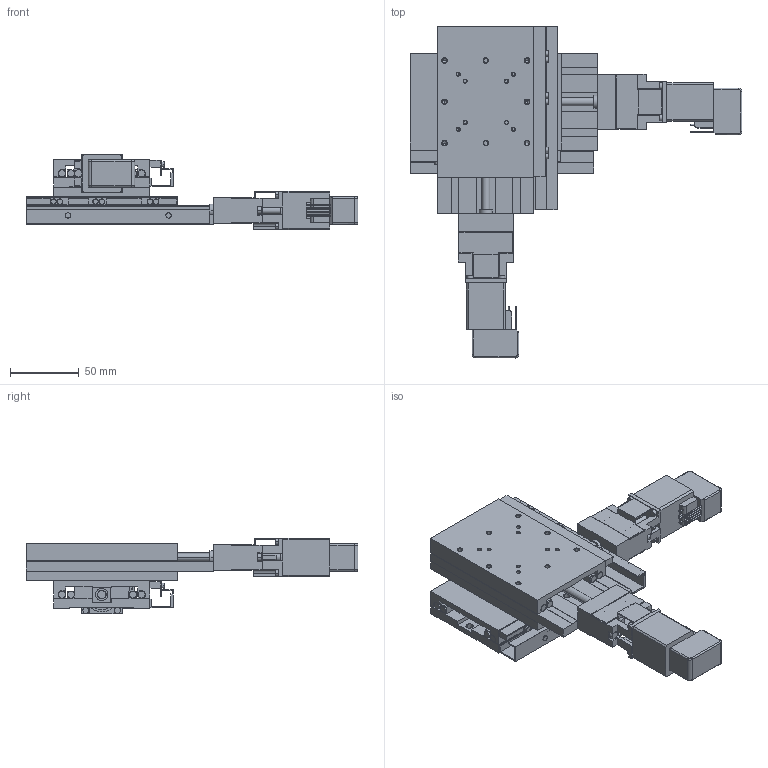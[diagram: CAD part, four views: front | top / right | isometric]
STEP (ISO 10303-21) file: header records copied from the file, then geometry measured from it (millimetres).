
FILE_DESCRIPTION(('STEP AP203'),'1');
FILE_NAME('C:/3D-Trans/3D_PMG750T-R□-ZA+240122.step','2024-03-14T08:44:43',(' '),(' '),'Spatial InterOp 3D',' ',' ');
FILE_SCHEMA(('CONFIG_CONTROL_DESIGN'));
Length unit declared in the file: millimetre
Products named in the file (13): 1; 2; 3; 4; 5; 6; 7; 8; 9; 10; 11; 12; 13
Bounding box: 241 x 241 x 55 mm (x, y, z)
Volume: 438591 mm3; surface area: 189478.2 mm2
Topology: 13 solids, 13 shells, 1226 faces, 3106 edges, 1928 vertices
Faces by surface type: plane 602, cylinder 424, cone 192, torus 8
Entity records: 37580 total; most frequent: CARTESIAN_POINT 6867, DIRECTION 6544, ORIENTED_EDGE 6100, EDGE_CURVE 3050, AXIS2_PLACEMENT_3D 2309, VERTEX_POINT 1928, LINE 1926, VECTOR 1926
